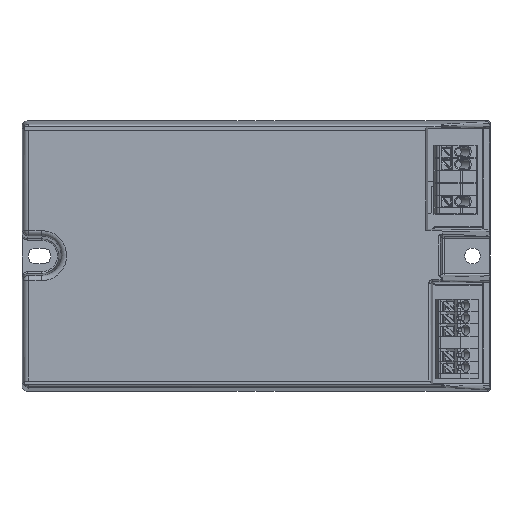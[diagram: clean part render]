
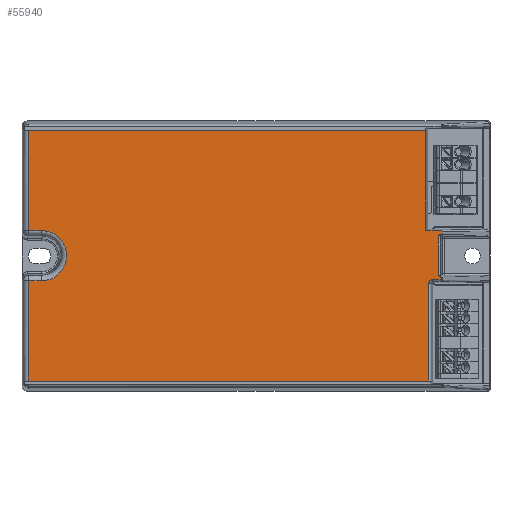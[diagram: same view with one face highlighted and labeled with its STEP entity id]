
A CAD part, top view. The second image highlights one B-rep face of the part: STEP entity #55940.
In plain terms, the highlighted planar face has unit normal (0, 0, 1).
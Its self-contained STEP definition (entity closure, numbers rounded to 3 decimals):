
#2073=PLANE('',#59788);
#4985=LINE('',#85884,#10874);
#5001=LINE('',#85964,#10890);
#5005=LINE('',#85985,#10894);
#5009=LINE('',#86048,#10898);
#5010=LINE('',#86050,#10899);
#5011=LINE('',#86063,#10900);
#5012=LINE('',#86076,#10901);
#5013=LINE('',#86078,#10902);
#5014=LINE('',#86082,#10903);
#5015=LINE('',#86083,#10904);
#5016=LINE('',#86085,#10905);
#5017=LINE('',#86087,#10906);
#5018=LINE('',#86091,#10907);
#5019=LINE('',#86092,#10908);
#10874=VECTOR('',#66787,10.);
#10890=VECTOR('',#66819,10.);
#10894=VECTOR('',#66829,10.);
#10898=VECTOR('',#66845,10.);
#10899=VECTOR('',#66846,10.);
#10900=VECTOR('',#66847,10.);
#10901=VECTOR('',#66848,10.);
#10902=VECTOR('',#66849,10.);
#10903=VECTOR('',#66852,10.);
#10904=VECTOR('',#66853,10.);
#10905=VECTOR('',#66854,10.);
#10906=VECTOR('',#66855,10.);
#10907=VECTOR('',#66858,10.);
#10908=VECTOR('',#66859,10.);
#16821=FACE_OUTER_BOUND('',#19914,.T.);
#19914=EDGE_LOOP('',(#42722,#42723,#42724,#42725,#42726,#42727,#42728,#42729,
#42730,#42731,#42732,#42733,#42734,#42735,#42736,#42737,#42738,#42739,#42740));
#22854=CIRCLE('',#59791,7.109);
#24200=ELLIPSE('',#59789,1.,1.);
#24201=ELLIPSE('',#59790,0.548,0.5);
#24658=B_SPLINE_CURVE_WITH_KNOTS('',3,(#86052,#86053,#86054,#86055,#86056,
#86057,#86058,#86059,#86060,#86061),.UNSPECIFIED.,.F.,.F.,(4,2,2,2,4),(0.,
0.,0.039,0.062,0.086),
 .UNSPECIFIED.);
#24659=B_SPLINE_CURVE_WITH_KNOTS('',3,(#86065,#86066,#86067,#86068,#86069,
#86070,#86071,#86072,#86073,#86074),.UNSPECIFIED.,.F.,.F.,(4,2,2,2,4),(0.,
0.021,0.042,0.103,0.103),
 .UNSPECIFIED.);
#26392=VERTEX_POINT('',#85876);
#26395=VERTEX_POINT('',#85882);
#26412=VERTEX_POINT('',#85960);
#26413=VERTEX_POINT('',#85962);
#26417=VERTEX_POINT('',#85983);
#26421=VERTEX_POINT('',#86045);
#26422=VERTEX_POINT('',#86047);
#26423=VERTEX_POINT('',#86049);
#26424=VERTEX_POINT('',#86051);
#26425=VERTEX_POINT('',#86062);
#26426=VERTEX_POINT('',#86064);
#26427=VERTEX_POINT('',#86075);
#26428=VERTEX_POINT('',#86077);
#26429=VERTEX_POINT('',#86079);
#26430=VERTEX_POINT('',#86081);
#26431=VERTEX_POINT('',#86084);
#26432=VERTEX_POINT('',#86086);
#26433=VERTEX_POINT('',#86088);
#26434=VERTEX_POINT('',#86090);
#32484=EDGE_CURVE('',#26392,#26395,#4985,.T.);
#32507=EDGE_CURVE('',#26412,#26413,#5001,.T.);
#32513=EDGE_CURVE('',#26417,#26395,#5005,.T.);
#32521=EDGE_CURVE('',#26421,#26417,#24200,.T.);
#32522=EDGE_CURVE('',#26422,#26421,#5009,.T.);
#32523=EDGE_CURVE('',#26423,#26422,#5010,.T.);
#32524=EDGE_CURVE('',#26424,#26423,#24658,.T.);
#32525=EDGE_CURVE('',#26425,#26424,#5011,.T.);
#32526=EDGE_CURVE('',#26426,#26425,#24659,.T.);
#32527=EDGE_CURVE('',#26427,#26426,#5012,.T.);
#32528=EDGE_CURVE('',#26427,#26428,#5013,.T.);
#32529=EDGE_CURVE('',#26429,#26428,#24201,.T.);
#32530=EDGE_CURVE('',#26429,#26430,#5014,.T.);
#32531=EDGE_CURVE('',#26430,#26412,#5015,.T.);
#32532=EDGE_CURVE('',#26431,#26413,#5016,.T.);
#32533=EDGE_CURVE('',#26432,#26431,#5017,.T.);
#32534=EDGE_CURVE('',#26433,#26432,#22854,.T.);
#32535=EDGE_CURVE('',#26434,#26433,#5018,.T.);
#32536=EDGE_CURVE('',#26392,#26434,#5019,.T.);
#42722=ORIENTED_EDGE('',*,*,#32484,.T.);
#42723=ORIENTED_EDGE('',*,*,#32513,.F.);
#42724=ORIENTED_EDGE('',*,*,#32521,.F.);
#42725=ORIENTED_EDGE('',*,*,#32522,.F.);
#42726=ORIENTED_EDGE('',*,*,#32523,.F.);
#42727=ORIENTED_EDGE('',*,*,#32524,.F.);
#42728=ORIENTED_EDGE('',*,*,#32525,.F.);
#42729=ORIENTED_EDGE('',*,*,#32526,.F.);
#42730=ORIENTED_EDGE('',*,*,#32527,.F.);
#42731=ORIENTED_EDGE('',*,*,#32528,.T.);
#42732=ORIENTED_EDGE('',*,*,#32529,.F.);
#42733=ORIENTED_EDGE('',*,*,#32530,.T.);
#42734=ORIENTED_EDGE('',*,*,#32531,.T.);
#42735=ORIENTED_EDGE('',*,*,#32507,.T.);
#42736=ORIENTED_EDGE('',*,*,#32532,.F.);
#42737=ORIENTED_EDGE('',*,*,#32533,.F.);
#42738=ORIENTED_EDGE('',*,*,#32534,.F.);
#42739=ORIENTED_EDGE('',*,*,#32535,.F.);
#42740=ORIENTED_EDGE('',*,*,#32536,.F.);
#55940=ADVANCED_FACE('',(#16821),#2073,.T.);
#59788=AXIS2_PLACEMENT_3D('',#86044,#66841,#66842);
#59789=AXIS2_PLACEMENT_3D('',#86046,#66843,#66844);
#59790=AXIS2_PLACEMENT_3D('',#86080,#66850,#66851);
#59791=AXIS2_PLACEMENT_3D('',#86089,#66856,#66857);
#66787=DIRECTION('',(-1.,0.,0.));
#66819=DIRECTION('',(1.,0.,0.));
#66829=DIRECTION('',(0.,1.,0.));
#66841=DIRECTION('center_axis',(0.,0.,1.));
#66842=DIRECTION('ref_axis',(1.,0.,0.));
#66843=DIRECTION('center_axis',(0.,0.,1.));
#66844=DIRECTION('ref_axis',(0.898,-0.44,0.));
#66845=DIRECTION('',(1.,-0.002,0.));
#66846=DIRECTION('',(0.,1.,0.));
#66847=DIRECTION('',(0.,1.,0.));
#66848=DIRECTION('',(1.,0.,0.));
#66849=DIRECTION('',(0.,-1.,0.));
#66850=DIRECTION('center_axis',(0.,0.,-1.));
#66851=DIRECTION('ref_axis',(-1.,-0.021,0.));
#66852=DIRECTION('',(1.,0.002,0.));
#66853=DIRECTION('',(0.,-1.,0.));
#66854=DIRECTION('',(0.,-1.,0.));
#66855=DIRECTION('',(1.,0.,0.));
#66856=DIRECTION('center_axis',(0.,0.,1.));
#66857=DIRECTION('ref_axis',(-1.,0.,0.));
#66858=DIRECTION('',(-1.,0.,0.));
#66859=DIRECTION('',(0.,-1.,0.));
#85876=CARTESIAN_POINT('',(64.368,35.434,39.5));
#85882=CARTESIAN_POINT('',(-48.93,35.434,39.5));
#85884=CARTESIAN_POINT('',(0.,35.434,39.5));
#85960=CARTESIAN_POINT('',(-48.021,-35.436,39.5));
#85962=CARTESIAN_POINT('',(64.368,-35.436,39.5));
#85964=CARTESIAN_POINT('',(0.,-35.436,39.5));
#85983=CARTESIAN_POINT('',(-48.93,7.735,39.5));
#85985=CARTESIAN_POINT('',(-48.93,3.73,39.5));
#86044=CARTESIAN_POINT('Origin',(0.,0.,39.5));
#86045=CARTESIAN_POINT('',(-49.932,6.735,39.5));
#86046=CARTESIAN_POINT('Origin',(-49.93,7.735,39.5));
#86047=CARTESIAN_POINT('',(-52.377,6.739,39.5));
#86048=CARTESIAN_POINT('',(-32.194,6.701,39.5));
#86049=CARTESIAN_POINT('',(-52.377,6.133,39.5));
#86050=CARTESIAN_POINT('',(-52.377,-19.1,39.5));
#86051=CARTESIAN_POINT('',(-51.573,5.644,39.5));
#86052=CARTESIAN_POINT('Ctrl Pts',(-51.573,5.644,39.5));
#86053=CARTESIAN_POINT('Ctrl Pts',(-51.574,5.645,39.5));
#86054=CARTESIAN_POINT('Ctrl Pts',(-51.575,5.645,39.5));
#86055=CARTESIAN_POINT('Ctrl Pts',(-51.669,5.738,39.5));
#86056=CARTESIAN_POINT('Ctrl Pts',(-51.77,5.838,39.5));
#86057=CARTESIAN_POINT('Ctrl Pts',(-51.945,5.972,39.5));
#86058=CARTESIAN_POINT('Ctrl Pts',(-52.021,6.021,39.5));
#86059=CARTESIAN_POINT('Ctrl Pts',(-52.202,6.103,39.5));
#86060=CARTESIAN_POINT('Ctrl Pts',(-52.292,6.126,39.5));
#86061=CARTESIAN_POINT('Ctrl Pts',(-52.377,6.133,39.5));
#86062=CARTESIAN_POINT('',(-51.573,-5.644,39.5));
#86063=CARTESIAN_POINT('',(-51.573,2.75,39.5));
#86064=CARTESIAN_POINT('',(-52.434,-6.135,39.5));
#86065=CARTESIAN_POINT('Ctrl Pts',(-52.434,-6.135,
39.5));
#86066=CARTESIAN_POINT('Ctrl Pts',(-52.364,-6.135,
39.5));
#86067=CARTESIAN_POINT('Ctrl Pts',(-52.294,-6.124,
39.5));
#86068=CARTESIAN_POINT('Ctrl Pts',(-52.159,-6.084,
39.5));
#86069=CARTESIAN_POINT('Ctrl Pts',(-52.094,-6.056,
39.5));
#86070=CARTESIAN_POINT('Ctrl Pts',(-51.854,-5.925,
39.5));
#86071=CARTESIAN_POINT('Ctrl Pts',(-51.713,-5.784,
39.5));
#86072=CARTESIAN_POINT('Ctrl Pts',(-51.575,-5.645,
39.5));
#86073=CARTESIAN_POINT('Ctrl Pts',(-51.574,-5.645,
39.5));
#86074=CARTESIAN_POINT('Ctrl Pts',(-51.573,-5.644,39.5));
#86075=CARTESIAN_POINT('',(-52.7,-6.135,39.5));
#86076=CARTESIAN_POINT('',(-26.35,-6.135,39.5));
#86077=CARTESIAN_POINT('',(-52.7,-6.737,39.5));
#86078=CARTESIAN_POINT('',(-52.7,-19.1,39.5));
#86079=CARTESIAN_POINT('',(-52.153,-7.235,39.5));
#86080=CARTESIAN_POINT('Origin',(-52.152,-6.735,39.5));
#86081=CARTESIAN_POINT('',(-48.021,-7.227,39.5));
#86082=CARTESIAN_POINT('',(-24.293,-7.182,39.5));
#86083=CARTESIAN_POINT('',(-48.021,-18.2,39.5));
#86084=CARTESIAN_POINT('',(64.368,-7.109,39.5));
#86085=CARTESIAN_POINT('',(64.368,19.1,39.5));
#86086=CARTESIAN_POINT('',(60.7,-7.109,39.5));
#86087=CARTESIAN_POINT('',(33.1,-7.109,39.5));
#86088=CARTESIAN_POINT('',(60.7,7.109,39.5));
#86089=CARTESIAN_POINT('Origin',(60.7,0.,39.5));
#86090=CARTESIAN_POINT('',(64.368,7.109,39.5));
#86091=CARTESIAN_POINT('',(30.35,7.109,39.5));
#86092=CARTESIAN_POINT('',(64.368,19.1,39.5));
